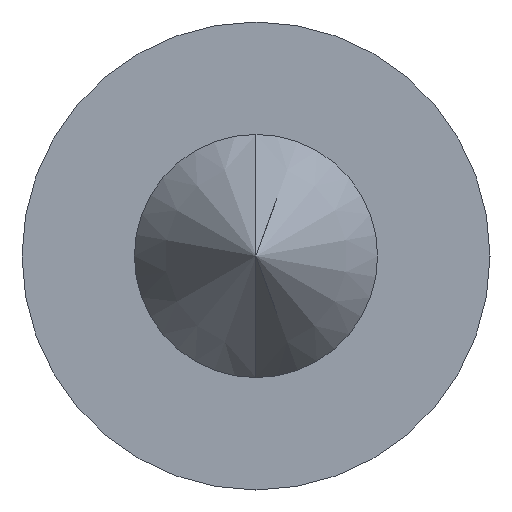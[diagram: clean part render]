
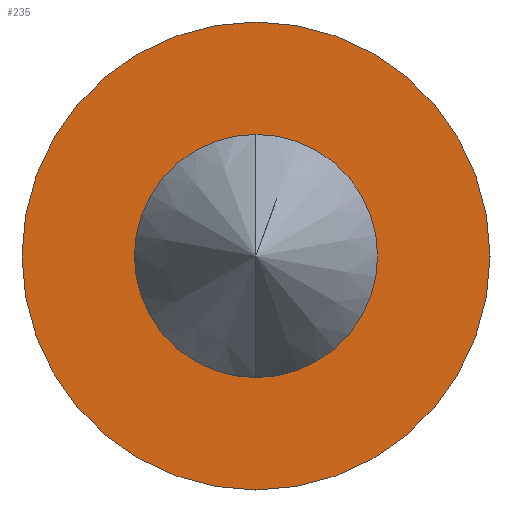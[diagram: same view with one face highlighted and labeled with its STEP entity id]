
A CAD part, left-side view. The second image highlights one B-rep face of the part: STEP entity #235.
In plain terms, the highlighted planar face has unit normal (-1, 0, 0).
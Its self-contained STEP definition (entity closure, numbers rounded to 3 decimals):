
#44 = CIRCLE ( 'NONE', #45, 0.33 ) ;
#45 = AXIS2_PLACEMENT_3D ( 'NONE', #350, #351, #352 ) ;
#78 = AXIS2_PLACEMENT_3D ( 'NONE', #364, #365, #366 ) ;
#111 = AXIS2_PLACEMENT_3D ( 'NONE', #423, #424, #443 ) ;
#112 = CIRCLE ( 'NONE', #111, 0.33 ) ;
#122 = AXIS2_PLACEMENT_3D ( 'NONE', #401, #403, #404 ) ;
#135 = CIRCLE ( 'NONE', #78, 0.635 ) ;
#212 = EDGE_CURVE ( 'NONE', #248, #331, #322, .T. ) ;
#215 = EDGE_CURVE ( 'NONE', #326, #341, #44, .T. ) ;
#225 = EDGE_CURVE ( 'NONE', #331, #248, #135, .T. ) ;
#235 = ADVANCED_FACE ( 'NONE', ( #395, #399 ), #402, .F. ) ;
#241 = EDGE_CURVE ( 'NONE', #341, #326, #112, .T. ) ;
#248 = VERTEX_POINT ( 'NONE', #458 ) ;
#252 = EDGE_LOOP ( 'NONE', ( #276, #277 ) ) ;
#255 = EDGE_LOOP ( 'NONE', ( #274, #275 ) ) ;
#274 = ORIENTED_EDGE ( 'NONE', *, *, #241, .F. ) ;
#275 = ORIENTED_EDGE ( 'NONE', *, *, #215, .F. ) ;
#276 = ORIENTED_EDGE ( 'NONE', *, *, #225, .T. ) ;
#277 = ORIENTED_EDGE ( 'NONE', *, *, #212, .T. ) ;
#310 = AXIS2_PLACEMENT_3D ( 'NONE', #439, #440, #441 ) ;
#322 = CIRCLE ( 'NONE', #310, 0.635 ) ;
#326 = VERTEX_POINT ( 'NONE', #465 ) ;
#331 = VERTEX_POINT ( 'NONE', #461 ) ;
#341 = VERTEX_POINT ( 'NONE', #473 ) ;
#350 = CARTESIAN_POINT ( 'NONE',  ( 0., 0., 0. ) ) ;
#351 = DIRECTION ( 'NONE',  ( -1., 0., 0. ) ) ;
#352 = DIRECTION ( 'NONE',  ( 0., 0., 1. ) ) ;
#364 = CARTESIAN_POINT ( 'NONE',  ( 0., 0., 0. ) ) ;
#365 = DIRECTION ( 'NONE',  ( -1., 0., 0. ) ) ;
#366 = DIRECTION ( 'NONE',  ( 0., 0., 1. ) ) ;
#395 = FACE_BOUND ( 'NONE', #255, .T. ) ;
#399 = FACE_OUTER_BOUND ( 'NONE', #252, .T. ) ;
#401 = CARTESIAN_POINT ( 'NONE',  ( 0., 0.635, 0. ) ) ;
#402 = PLANE ( 'NONE',  #122 ) ;
#403 = DIRECTION ( 'NONE',  ( 1., 0., 0. ) ) ;
#404 = DIRECTION ( 'NONE',  ( 0., 0., -1. ) ) ;
#423 = CARTESIAN_POINT ( 'NONE',  ( 0., 0., 0. ) ) ;
#424 = DIRECTION ( 'NONE',  ( -1., 0., 0. ) ) ;
#439 = CARTESIAN_POINT ( 'NONE',  ( 0., 0., 0. ) ) ;
#440 = DIRECTION ( 'NONE',  ( -1., 0., 0. ) ) ;
#441 = DIRECTION ( 'NONE',  ( 0., 0., 1. ) ) ;
#443 = DIRECTION ( 'NONE',  ( 0., 0., 1. ) ) ;
#458 = CARTESIAN_POINT ( 'NONE',  ( 0., 0., -0.635 ) ) ;
#461 = CARTESIAN_POINT ( 'NONE',  ( 0., 0., 0.635 ) ) ;
#465 = CARTESIAN_POINT ( 'NONE',  ( 0., 0., -0.33 ) ) ;
#473 = CARTESIAN_POINT ( 'NONE',  ( 0., 0., 0.33 ) ) ;
